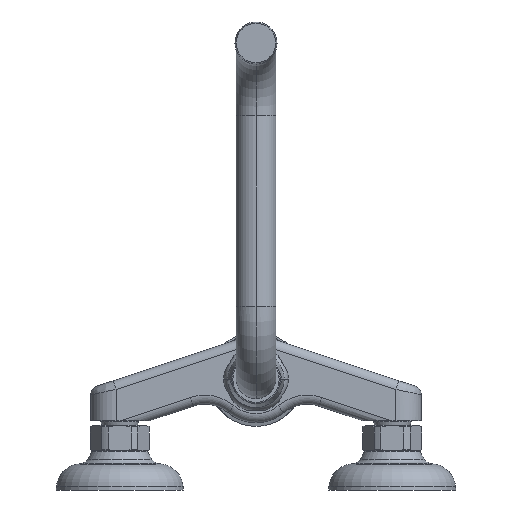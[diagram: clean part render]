
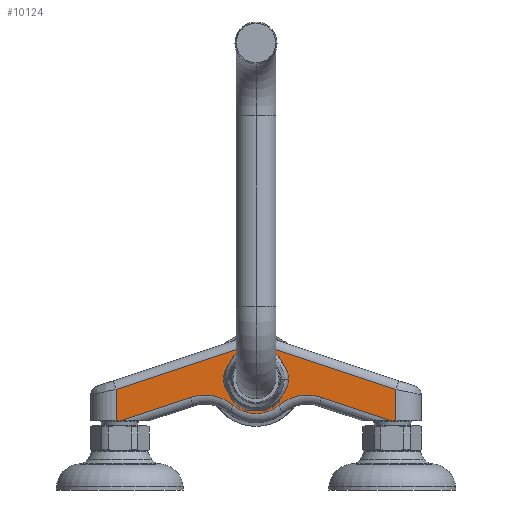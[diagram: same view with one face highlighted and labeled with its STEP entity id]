
A CAD part, front view. The second image highlights one B-rep face of the part: STEP entity #10124.
In plain terms, the highlighted planar face has unit normal (0, -1, 0).
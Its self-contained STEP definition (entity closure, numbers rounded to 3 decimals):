
#2378=DIRECTION('',(-1.,0.,0.));
#2379=VECTOR('',#2378,2.171);
#2380=CARTESIAN_POINT('',(-74.829,-16.,-23.));
#2381=LINE('',#2380,#2379);
#2382=DIRECTION('',(0.,0.,-1.));
#2383=VECTOR('',#2382,17.391);
#2384=CARTESIAN_POINT('',(-77.,-16.,-5.609));
#2385=LINE('',#2384,#2383);
#2386=DIRECTION('',(-0.949,0.,-0.316));
#2387=VECTOR('',#2386,74.83);
#2388=CARTESIAN_POINT('',(-6.001,-16.,18.027));
#2389=LINE('',#2388,#2387);
#2390=CARTESIAN_POINT('',(0.,-16.,0.));
#2391=DIRECTION('',(0.,-1.,0.));
#2392=DIRECTION('',(0.316,0.,0.949));
#2393=AXIS2_PLACEMENT_3D('',#2390,#2391,#2392);
#2395=DIRECTION('',(-0.949,0.,0.316));
#2396=VECTOR('',#2395,74.83);
#2397=CARTESIAN_POINT('',(77.,-16.,-5.609));
#2398=LINE('',#2397,#2396);
#2399=DIRECTION('',(0.,0.,1.));
#2400=VECTOR('',#2399,17.391);
#2401=CARTESIAN_POINT('',(77.,-16.,-23.));
#2402=LINE('',#2401,#2400);
#2403=DIRECTION('',(1.,0.,0.));
#2404=VECTOR('',#2403,2.171);
#2405=CARTESIAN_POINT('',(74.829,-16.,-23.));
#2406=LINE('',#2405,#2404);
#2407=DIRECTION('',(0.949,0.,-0.316));
#2408=VECTOR('',#2407,40.868);
#2409=CARTESIAN_POINT('',(36.054,-16.,-10.091));
#2410=LINE('',#2409,#2408);
#2411=CARTESIAN_POINT('',(28.157,-16.,-33.811));
#2412=DIRECTION('',(0.,1.,0.));
#2413=DIRECTION('',(-0.64,0.,0.768));
#2414=AXIS2_PLACEMENT_3D('',#2411,#2412,#2413);
#2416=CARTESIAN_POINT('',(0.,-16.,0.));
#2417=DIRECTION('',(0.,-1.,0.));
#2418=DIRECTION('',(-0.64,0.,-0.768));
#2419=AXIS2_PLACEMENT_3D('',#2416,#2417,#2418);
#2421=CARTESIAN_POINT('',(-28.157,-16.,-33.811));
#2422=DIRECTION('',(0.,1.,0.));
#2423=DIRECTION('',(-0.316,0.,0.949));
#2424=AXIS2_PLACEMENT_3D('',#2421,#2422,#2423);
#2426=DIRECTION('',(0.949,0.,0.316));
#2427=VECTOR('',#2426,40.868);
#2428=CARTESIAN_POINT('',(-74.829,-16.,-23.));
#2429=LINE('',#2428,#2427);
#2820=CARTESIAN_POINT('',(74.829,-16.,-23.));
#3047=CARTESIAN_POINT('',(77.,-16.,-5.609));
#4388=CARTESIAN_POINT('',(0.,-16.,0.));
#4389=DIRECTION('',(0.,1.,0.));
#4390=DIRECTION('',(1.,0.,0.));
#4391=AXIS2_PLACEMENT_3D('',#4388,#4389,#4390);
#4398=CARTESIAN_POINT('',(0.,-16.,0.));
#4399=DIRECTION('',(0.,1.,0.));
#4400=DIRECTION('',(-1.,0.,0.));
#4401=AXIS2_PLACEMENT_3D('',#4398,#4399,#4400);
#6146=CARTESIAN_POINT('',(-74.829,-16.,-23.));
#6147=CARTESIAN_POINT('',(-77.,-16.,-23.));
#6148=VERTEX_POINT('',#6146);
#6149=VERTEX_POINT('',#6147);
#6167=CARTESIAN_POINT('',(-77.,-16.,-5.609));
#6168=VERTEX_POINT('',#6167);
#6174=CARTESIAN_POINT('',(77.,-16.,-23.));
#6176=VERTEX_POINT('',#6174);
#6185=VERTEX_POINT('',#3047);
#6187=CARTESIAN_POINT('',(6.001,-16.,18.027));
#6188=VERTEX_POINT('',#6187);
#6191=CARTESIAN_POINT('',(-6.001,-16.,18.027));
#6192=VERTEX_POINT('',#6191);
#6199=VERTEX_POINT('',#2820);
#6203=CARTESIAN_POINT('',(36.054,-16.,-10.091));
#6204=VERTEX_POINT('',#6203);
#6205=CARTESIAN_POINT('',(12.159,-16.,-14.6));
#6206=VERTEX_POINT('',#6205);
#6209=CARTESIAN_POINT('',(-12.159,-16.,-14.6));
#6210=VERTEX_POINT('',#6209);
#6211=CARTESIAN_POINT('',(-36.054,-16.,-10.091));
#6212=VERTEX_POINT('',#6211);
#6893=CARTESIAN_POINT('',(12.8,-16.,0.));
#6894=CARTESIAN_POINT('',(-12.8,-16.,0.));
#6895=VERTEX_POINT('',#6893);
#6896=VERTEX_POINT('',#6894);
#10088=CARTESIAN_POINT('',(0.,-16.,0.));
#10089=DIRECTION('',(0.,1.,0.));
#10090=DIRECTION('',(1.,0.,0.));
#10091=AXIS2_PLACEMENT_3D('',#10088,#10089,#10090);
#10092=PLANE('',#10091);
#10094=ORIENTED_EDGE('',*,*,#10093,.T.);
#10096=ORIENTED_EDGE('',*,*,#10095,.F.);
#10097=ORIENTED_EDGE('',*,*,#10078,.F.);
#10099=ORIENTED_EDGE('',*,*,#10098,.F.);
#10101=ORIENTED_EDGE('',*,*,#10100,.F.);
#10103=ORIENTED_EDGE('',*,*,#10102,.F.);
#10105=ORIENTED_EDGE('',*,*,#10104,.F.);
#10107=ORIENTED_EDGE('',*,*,#10106,.F.);
#10109=ORIENTED_EDGE('',*,*,#10108,.F.);
#10111=ORIENTED_EDGE('',*,*,#10110,.F.);
#10113=ORIENTED_EDGE('',*,*,#10112,.F.);
#10115=ORIENTED_EDGE('',*,*,#10114,.F.);
#10116=EDGE_LOOP('',(#10094,#10096,#10097,#10099,#10101,#10103,#10105,#10107,
#10109,#10111,#10113,#10115));
#10117=FACE_OUTER_BOUND('',#10116,.F.);
#10119=ORIENTED_EDGE('',*,*,#10118,.F.);
#10121=ORIENTED_EDGE('',*,*,#10120,.F.);
#10122=EDGE_LOOP('',(#10119,#10121));
#10123=FACE_BOUND('',#10122,.F.);
#10124=ADVANCED_FACE('',(#10117,#10123),#10092,.F.);
#2394=CIRCLE('',#2393,19.);
#2415=CIRCLE('',#2414,25.);
#2420=CIRCLE('',#2419,19.);
#2425=CIRCLE('',#2424,25.);
#4392=CIRCLE('',#4391,12.8);
#4402=CIRCLE('',#4401,12.8);
#10078=EDGE_CURVE('',#6192,#6168,#2389,.T.);
#10093=EDGE_CURVE('',#6148,#6149,#2381,.T.);
#10095=EDGE_CURVE('',#6168,#6149,#2385,.T.);
#10098=EDGE_CURVE('',#6188,#6192,#2394,.T.);
#10100=EDGE_CURVE('',#6185,#6188,#2398,.T.);
#10102=EDGE_CURVE('',#6176,#6185,#2402,.T.);
#10104=EDGE_CURVE('',#6199,#6176,#2406,.T.);
#10106=EDGE_CURVE('',#6204,#6199,#2410,.T.);
#10108=EDGE_CURVE('',#6206,#6204,#2415,.T.);
#10110=EDGE_CURVE('',#6210,#6206,#2420,.T.);
#10112=EDGE_CURVE('',#6212,#6210,#2425,.T.);
#10114=EDGE_CURVE('',#6148,#6212,#2429,.T.);
#10118=EDGE_CURVE('',#6895,#6896,#4392,.T.);
#10120=EDGE_CURVE('',#6896,#6895,#4402,.T.);
